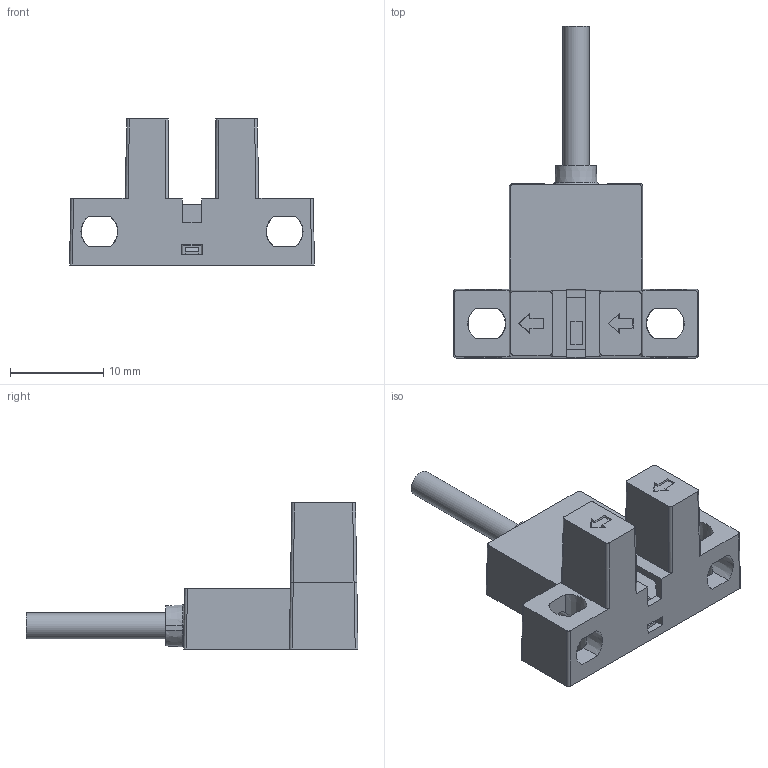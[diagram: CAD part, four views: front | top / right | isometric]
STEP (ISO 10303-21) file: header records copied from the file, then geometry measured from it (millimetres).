
FILE_DESCRIPTION(/* description */ (''),/* implementation_level */ '2;1');
FILE_NAME(/* name */ '305-出线.stp',/* time_stamp */ '2016-12-22T15:51:18+08:00',/* author */ (''),/* organization */ (''),/* preprocessor_version */ 'ST-DEVELOPER v16',/* originating_system */ 'SIEMENS PLM Software NX 10.0',/* authorisation */ '');
FILE_SCHEMA (('AP203_CONFIGURATION_CONTROLLED_3D_DESIGN_OF_MECHANICAL_PARTS_AND_ASSEMBLIES_MIM_LF { 1 0 10303 403 2 1 2}'));
Length unit declared in the file: millimetre
Products named in the file (1): Gavi0C983A09kb2a
Bounding box: 26.33 x 35.69 x 15.7 mm (x, y, z)
Volume: 1653.8 mm3; surface area: 4117.2 mm2
Topology: 7 solids, 7 shells, 369 faces, 1017 edges, 668 vertices
Faces by surface type: plane 309, cylinder 34, cone 17, torus 5, bspline 2, sphere 2
Full cylindrical faces by diameter (mm): 0.7 x4, 1 x4, 1.5 x2, 2.8 x1, 3 x1, 3.6 x1, 5 x1
Entity records: 12203 total; most frequent: CARTESIAN_POINT 2824, ORIENTED_EDGE 1968, DIRECTION 1777, EDGE_CURVE 984, LINE 817, VECTOR 817, VERTEX_POINT 655, AXIS2_PLACEMENT_3D 480
